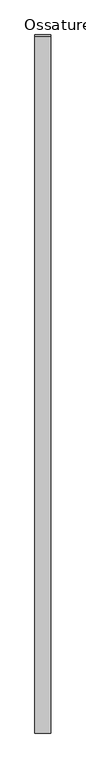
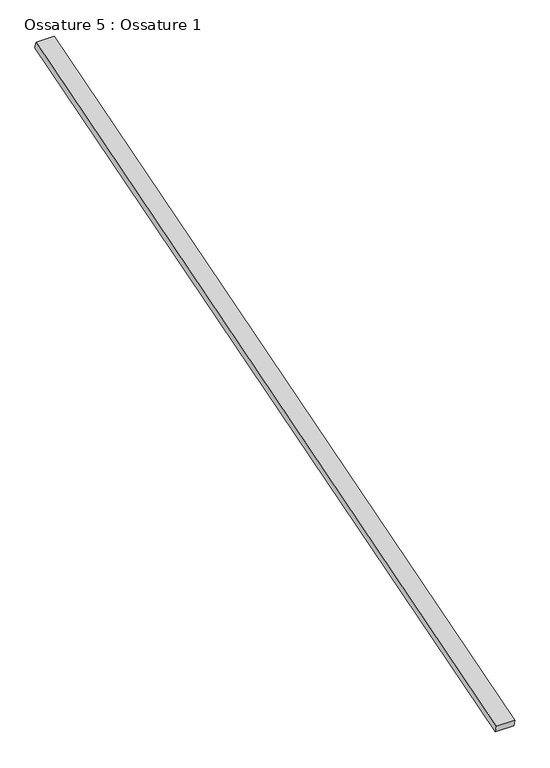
"""IFC4 building model written with IfcOpenShell, lengths in millimetres: beam geometry, Ossature 5 : Ossature 1."""

from ifc_helpers import new_model, si_unit, frame, origin, place, context, project, spatial, polyline, outline, extrude, source, transform, mapped, element, save


def ossature_5_ossature_1_10297239(model_context):
    return source(origin(), model_context, "Body", "SweptSolid", [
        extrude(outline(polyline([(0.0, 0.0), (0.0, -4543.0299679), (-100.0, -4543.0299679), (-100.0, 0.0), (0.0, 0.0)])), frame((1504.6466393, -833.3913565, 8153.6336115), z_axis=(0.0, -0.28734788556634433, 0.9578262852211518), x_axis=(-1.0, 0.0, 0.0)), (0.0, 0.0, 1.0), 40.0),
    ])


if __name__ == "__main__":
    model = new_model("IFC4")
    model_context = context("Model", 3, world=origin())
    ifc_project = project(units=[si_unit("LENGTHUNIT", "METRE", prefix="MILLI")], contexts=[model_context])
    site = spatial("IfcSite", under=ifc_project)
    building = spatial("IfcBuilding", under=site)
    placement = place(None, origin())
    ossature_5_ossature_1_shape = ossature_5_ossature_1_10297239(model_context)
    element("IfcBeam", 1, ObjectType="Ossature 5 : Ossature 1", at=placement, inside=building, context=model_context, shape_type="MappedRepresentation", body=[
        mapped(ossature_5_ossature_1_shape, transform((0.0, 0.0, 0.0), x_axis=(1.0, 0.0, 0.0), y_axis=(0.0, 1.0, 0.0), z_axis=(0.0, 0.0, 1.0))),
    ])
    save(model, "model.ifc")
